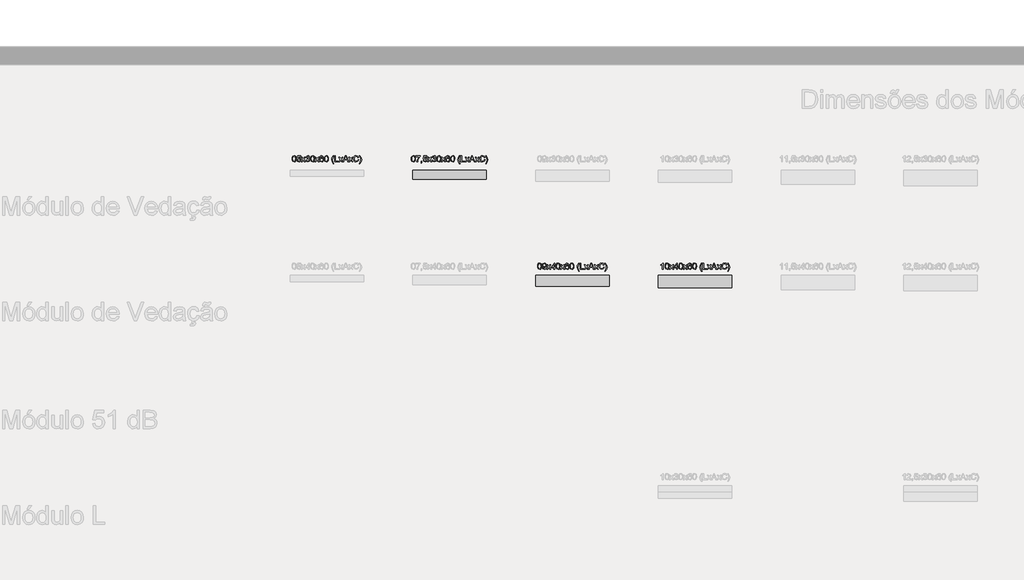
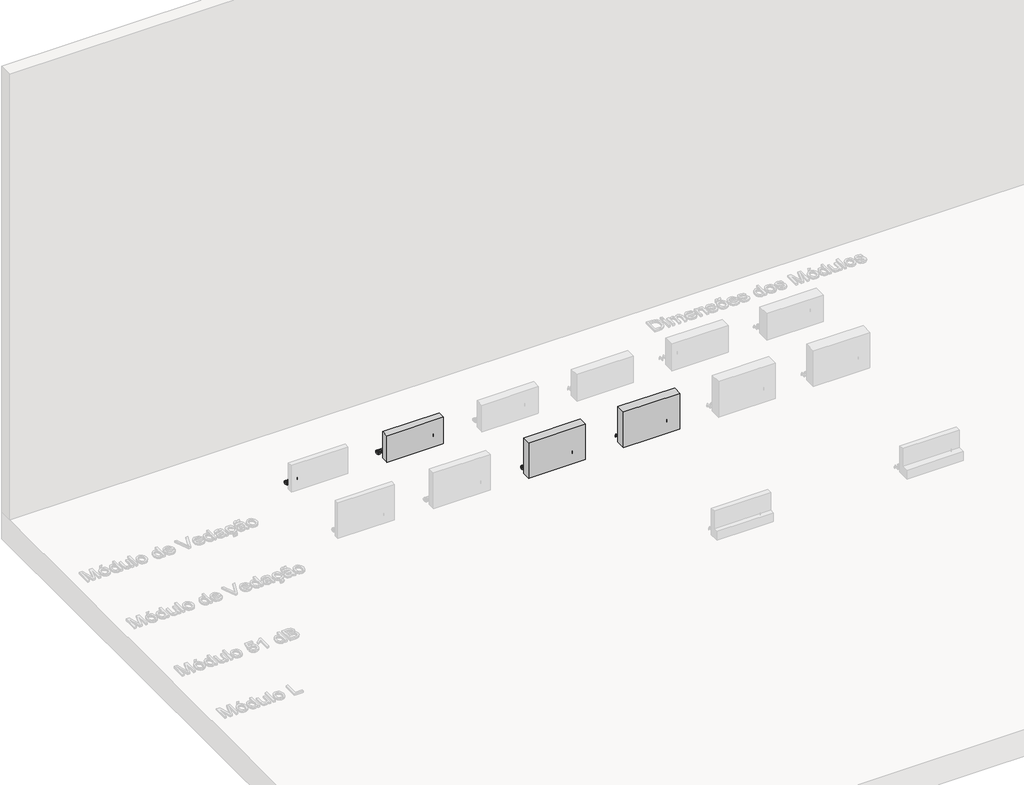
# One storey, part 18 of 26: 7 proxies.
"""IFC4 building model written with IfcOpenShell, lengths in millimetres."""

from ifc_helpers import new_model, si_unit, origin, origin_with_axes, place, context, project, spatial, polyline, outline, extrude, transform, mapped, element, save
from components import generic_models_7dfa735e, generic_models_d6f11422, generic_models_48ae7e6d

model = new_model("IFC4")

# Units and contexts
model_context = context("Model", 3, world=origin())
ifc_project = project(units=[si_unit("LENGTHUNIT", "METRE", prefix="MILLI")], contexts=[model_context])

# Site, building, storey
site = spatial("IfcSite", under=ifc_project)
building = spatial("IfcBuilding", under=site)
storey = spatial("IfcBuildingStorey", under=building, Name="Catálogo Celucon", Elevation=0.0)

# Proxies
placement = place(None, origin())
element("IfcBuildingElementProxy", 1, Name="Dimensões", ObjectType="Dimensões", at=placement, inside=storey, context=model_context, shape_type="SweptSolid", body=[
    extrude(outline(polyline([(-13781.5709703, 1443.172917), (-13779.725429, 1457.6245481), (-13774.2439872, 1465.9570753), (-13765.0898569, 1468.6916648), (-13757.7567425, 1467.072984), (-13752.6922337, 1462.407014), (-13749.7491777, 1454.9757977), (-13748.6087435, 1443.172917), (-13750.4358908, 1428.7825997), (-13755.8989384, 1420.4316784), (-13765.0898569, 1417.6786948), (-13776.5677752, 1422.4611607), (-13780.3201715, 1430.9561691), (-13781.5709703, 1443.172917)]), holes=[polyline([(-13775.2924509, 1443.1851798), (-13772.349395, 1427.5931146), (-13765.0898569, 1423.9572142), (-13757.8303189, 1427.6053773), (-13754.8872629, 1443.1851798), (-13757.732217, 1458.5994354), (-13765.1634333, 1462.4131454), (-13772.2512931, 1459.0531565), (-13775.2924509, 1443.1851798)])]), origin_with_axes(), (0.0, 0.0, 1.0), 20.0),
    extrude(outline(polyline([(-13743.1150391, 1431.8053634), (-13736.8365197, 1432.5901783), (-13733.6727345, 1426.1215866), (-13727.1121723, 1423.9572142), (-13719.2394976, 1426.9677152), (-13716.4313317, 1434.9568858), (-13719.061688, 1442.4126276), (-13727.0140704, 1445.1472171), (-13732.526169, 1444.0558338), (-13736.0517048, 1441.2231425), (-13742.3302242, 1442.0079574), (-13736.8365197, 1467.9068499), (-13712.5072571, 1467.9068499), (-13712.5072571, 1461.6283305), (-13731.7597482, 1461.6283305), (-13734.4452867, 1447.7959675), (-13725.2604996, 1451.4257365), (-13714.5244767, 1446.9253134), (-13710.1528123, 1435.3492933), (-13714.0891497, 1423.6996968), (-13719.7422697, 1419.1839453), (-13727.1366978, 1417.6786948), (-13738.2160772, 1421.5475871), (-13743.1150391, 1431.8053634)])), origin_with_axes(), (0.0, 0.0, 1.0), 20.0),
    extrude(outline(polyline([(-13707.0135526, 1418.4635097), (-13693.5981225, 1437.0047623), (-13706.2287377, 1455.3498111), (-13698.6748941, 1455.3498111), (-13692.5803157, 1446.5206432), (-13689.7353616, 1442.3513139), (-13687.2705522, 1445.7603537), (-13680.3298452, 1455.3498111), (-13672.7760016, 1455.3498111), (-13686.0442789, 1437.0047623), (-13673.2665109, 1418.4635097), (-13680.8203546, 1418.4635097), (-13688.5090883, 1429.6103342), (-13689.9193026, 1431.6459479), (-13699.459709, 1418.4635097), (-13707.0135526, 1418.4635097)])), origin_with_axes(), (0.0, 0.0, 1.0), 20.0),
    extrude(outline(polyline([(-13669.3424363, 1431.8053634), (-13663.0639169, 1432.5901783), (-13659.5996948, 1425.9805651), (-13653.1188403, 1423.9572142), (-13645.4914203, 1426.7408546), (-13642.6587289, 1433.6325106), (-13645.4668948, 1440.1256279), (-13652.6038055, 1442.6946705), (-13657.0061267, 1442.0079574), (-13656.3071509, 1448.2864768), (-13648.1769589, 1450.0155222), (-13645.0131737, 1455.5582776), (-13647.3063048, 1460.4695022), (-13653.2169422, 1462.4131454), (-13659.201156, 1460.4511081), (-13662.279102, 1454.5649962), (-13668.5576214, 1455.3498111), (-13663.4195362, 1465.1967858), (-13653.4376714, 1468.6916648), (-13645.8654337, 1466.9687508), (-13640.5679329, 1462.2598612), (-13638.7346543, 1455.9261595), (-13640.4759624, 1450.1381495), (-13645.6263104, 1445.9810829), (-13638.7837052, 1441.6891263), (-13636.3802095, 1433.522146), (-13641.1872009, 1422.2894825), (-13653.3395695, 1417.6786948), (-13664.3515039, 1421.6150321), (-13669.3424363, 1431.8053634)])), origin_with_axes(), (0.0, 0.0, 1.0), 20.0),
    extrude(outline(polyline([(-13630.8865051, 1443.172917), (-13629.0409637, 1457.6245481), (-13623.559522, 1465.9570753), (-13614.4053917, 1468.6916648), (-13607.0722773, 1467.072984), (-13602.0077685, 1462.407014), (-13599.0647125, 1454.9757977), (-13597.9242783, 1443.172917), (-13599.7514256, 1428.7825997), (-13605.2144732, 1420.4316784), (-13614.4053917, 1417.6786948), (-13625.8833099, 1422.4611607), (-13629.6357063, 1430.9561691), (-13630.8865051, 1443.172917)]), holes=[polyline([(-13624.6079857, 1443.1851798), (-13621.6649297, 1427.5931146), (-13614.4053917, 1423.9572142), (-13607.1458537, 1427.6053773), (-13604.2027977, 1443.1851798), (-13607.0477518, 1458.5994354), (-13614.4789681, 1462.4131454), (-13621.5668279, 1459.0531565), (-13624.6079857, 1443.1851798)])]), origin_with_axes(), (0.0, 0.0, 1.0), 20.0),
    extrude(outline(polyline([(-13594.7850186, 1418.4635097), (-13581.3695885, 1437.0047623), (-13594.0002037, 1455.3498111), (-13586.4463601, 1455.3498111), (-13580.3517817, 1446.5206432), (-13577.5068276, 1442.3513139), (-13575.0420182, 1445.7603537), (-13568.1013112, 1455.3498111), (-13560.5474676, 1455.3498111), (-13573.8157449, 1437.0047623), (-13561.0379769, 1418.4635097), (-13568.5918206, 1418.4635097), (-13576.2805543, 1429.6103342), (-13577.6907686, 1431.6459479), (-13587.231175, 1418.4635097), (-13594.7850186, 1418.4635097)])), origin_with_axes(), (0.0, 0.0, 1.0), 20.0),
    extrude(outline(polyline([(-13524.9364905, 1455.3498111), (-13531.2150099, 1454.5649962), (-13533.5939801, 1459.8011832), (-13539.8847622, 1462.4131454), (-13545.5501449, 1460.8925665), (-13549.8359702, 1455.1842642), (-13551.6201979, 1443.9945202), (-13546.0835738, 1449.0038467), (-13539.2225746, 1450.6409215), (-13528.5539968, 1446.1650239), (-13524.1516755, 1434.6012666), (-13526.2240775, 1425.9376456), (-13531.9262484, 1419.806279), (-13540.1545423, 1417.6786948), (-13552.9507044, 1423.319552), (-13556.661714, 1430.7875565), (-13557.8987172, 1441.9098555), (-13556.5252911, 1454.4147777), (-13552.4050128, 1462.9649684), (-13546.7794839, 1467.2599907), (-13539.4923547, 1468.6916648), (-13529.5718036, 1465.1477349), (-13524.9364905, 1455.3498111)]), holes=[polyline([(-13551.6201979, 1434.6993684), (-13550.167064, 1429.2608463), (-13546.304303, 1425.3122462), (-13540.6450517, 1423.9572142), (-13533.2444922, 1426.7653801), (-13530.4301949, 1434.3928001), (-13533.207704, 1441.6952577), (-13540.9025691, 1444.3624022), (-13548.4993323, 1441.6952577), (-13551.6201979, 1434.6993684)])]), origin_with_axes(), (0.0, 0.0, 1.0), 20.0),
    extrude(outline(polyline([(-13518.6579711, 1443.172917), (-13516.8124297, 1457.6245481), (-13511.330988, 1465.9570753), (-13502.1768577, 1468.6916648), (-13494.8437433, 1467.072984), (-13489.7792345, 1462.407014), (-13486.8361785, 1454.9757977), (-13485.6957443, 1443.172917), (-13487.5228916, 1428.7825997), (-13492.9859392, 1420.4316784), (-13502.1768577, 1417.6786948), (-13513.654776, 1422.4611607), (-13517.4071723, 1430.9561691), (-13518.6579711, 1443.172917)]), holes=[polyline([(-13512.3794517, 1443.1851798), (-13509.4363957, 1427.5931146), (-13502.1768577, 1423.9572142), (-13494.9173197, 1427.6053773), (-13491.9742637, 1443.1851798), (-13494.8192178, 1458.5994354), (-13502.2504341, 1462.4131454), (-13509.3382939, 1459.0531565), (-13512.3794517, 1443.1851798)])]), origin_with_axes(), (0.0, 0.0, 1.0), 20.0),
    extrude(outline(polyline([(-13446.4549982, 1404.3368411), (-13455.3700052, 1419.0643836), (-13459.0120369, 1436.5510411), (-13456.2897102, 1451.8181439), (-13446.4549982, 1468.6916648), (-13441.7461086, 1468.6916648), (-13447.6199578, 1458.7465882), (-13451.151625, 1449.1080799), (-13452.7335176, 1436.5142529), (-13449.9866653, 1420.4194156), (-13441.7461086, 1404.3368411), (-13446.4549982, 1404.3368411)])), origin_with_axes(), (0.0, 0.0, 1.0), 20.0),
    extrude(outline(polyline([(-13434.6827743, 1418.4635097), (-13434.6827743, 1468.6916648), (-13428.4042549, 1468.6916648), (-13428.4042549, 1424.7420291), (-13403.2901774, 1424.7420291), (-13403.2901774, 1418.4635097), (-13434.6827743, 1418.4635097)])), origin_with_axes(), (0.0, 0.0, 1.0), 20.0),
    extrude(outline(polyline([(-13366.7594953, 1418.4635097), (-13346.7099265, 1468.6916648), (-13341.3633749, 1468.6916648), (-13321.3138061, 1418.4635097), (-13327.9479448, 1418.4635097), (-13333.6991666, 1434.1598082), (-13354.3863975, 1434.1598082), (-13360.1253566, 1418.4635097), (-13366.7594953, 1418.4635097)]), holes=[polyline([(-13352.0810037, 1440.4383275), (-13335.9922977, 1440.4383275), (-13340.5172463, 1452.7868999), (-13344.0366507, 1462.4131454), (-13347.1636477, 1453.8660204), (-13352.0810037, 1440.4383275)])]), origin_with_axes(), (0.0, 0.0, 1.0), 20.0),
    extrude(outline(polyline([(-13400.9357326, 1418.4635097), (-13387.5203025, 1437.0047623), (-13400.1509177, 1455.3498111), (-13392.5970741, 1455.3498111), (-13386.5024957, 1446.5206432), (-13383.6575416, 1442.3513139), (-13381.1927322, 1445.7603537), (-13374.2520252, 1455.3498111), (-13366.6981816, 1455.3498111), (-13379.9664589, 1437.0047623), (-13367.1886909, 1418.4635097), (-13374.7425346, 1418.4635097), (-13382.4312683, 1429.6103342), (-13383.8414826, 1431.6459479), (-13393.381889, 1418.4635097), (-13400.9357326, 1418.4635097)])), origin_with_axes(), (0.0, 0.0, 1.0), 20.0),
    extrude(outline(polyline([(-13319.3149806, 1418.4635097), (-13305.8995505, 1437.0047623), (-13318.5301657, 1455.3498111), (-13310.9763221, 1455.3498111), (-13304.8817437, 1446.5206432), (-13302.0367896, 1442.3513139), (-13299.5719802, 1445.7603537), (-13292.6312733, 1455.3498111), (-13285.0774296, 1455.3498111), (-13298.3457069, 1437.0047623), (-13285.5679389, 1418.4635097), (-13293.1217826, 1418.4635097), (-13300.8105163, 1429.6103342), (-13302.2207306, 1431.6459479), (-13311.761137, 1418.4635097), (-13319.3149806, 1418.4635097)])), origin_with_axes(), (0.0, 0.0, 1.0), 20.0),
    extrude(outline(polyline([(-13243.972748, 1436.3180492), (-13237.6942286, 1434.6993684), (-13245.1377077, 1422.0380964), (-13258.2833576, 1417.6786948), (-13271.3492998, 1420.97737), (-13279.0135081, 1430.5300391), (-13281.6438643, 1443.957732), (-13278.6701515, 1457.606154), (-13270.214997, 1466.453716), (-13258.1484676, 1469.4764797), (-13245.5730347, 1465.5646678), (-13238.4790436, 1454.5527334), (-13244.7575629, 1453.05668), (-13249.9079109, 1460.7760705), (-13258.3937222, 1463.1979603), (-13268.2161715, 1460.5124218), (-13273.7650583, 1453.3019346), (-13275.3653449, 1443.9699947), (-13273.4707527, 1433.154264), (-13267.572378, 1426.2442139), (-13258.908757, 1423.9572142), (-13249.3009056, 1427.0719484), (-13243.972748, 1436.3180492)])), origin_with_axes(), (0.0, 0.0, 1.0), 20.0),
    extrude(outline(polyline([(-13228.2764496, 1404.3368411), (-13232.9853391, 1404.3368411), (-13224.7447824, 1420.4194156), (-13221.9979302, 1436.5142529), (-13223.5798228, 1448.9977153), (-13227.0747017, 1458.6484863), (-13232.9853391, 1468.6916648), (-13228.2764496, 1468.6916648), (-13218.4417376, 1451.8181439), (-13215.7194108, 1436.5510411), (-13219.3798366, 1419.0643836), (-13228.2764496, 1404.3368411)])), origin_with_axes(), (0.0, 0.0, 1.0), 20.0),
])
element("IfcBuildingElementProxy", 2, Name="Dimensões", ObjectType="Dimensões", at=placement, inside=storey, context=model_context, shape_type="SweptSolid", body=[
    extrude(outline(polyline([(-12810.6091225, 1443.172917), (-12808.7635811, 1457.6245481), (-12803.2821394, 1465.9570753), (-12794.1280091, 1468.6916648), (-12786.7948946, 1467.072984), (-12781.7303858, 1462.407014), (-12778.7873299, 1454.9757977), (-12777.6468957, 1443.172917), (-12779.4740429, 1428.7825997), (-12784.9370906, 1420.4316784), (-12794.1280091, 1417.6786948), (-12805.6059273, 1422.4611607), (-12809.3583237, 1430.9561691), (-12810.6091225, 1443.172917)]), holes=[polyline([(-12804.3306031, 1443.1851798), (-12801.3875471, 1427.5931146), (-12794.1280091, 1423.9572142), (-12786.868471, 1427.6053773), (-12783.9254151, 1443.1851798), (-12786.7703692, 1458.5994354), (-12794.2015855, 1462.4131454), (-12801.2894452, 1459.0531565), (-12804.3306031, 1443.1851798)])]), origin_with_axes(), (0.0, 0.0, 1.0), 20.0),
    extrude(outline(polyline([(-12772.1531912, 1461.6283305), (-12772.1531912, 1467.9068499), (-12739.1909645, 1467.9068499), (-12739.1909645, 1462.8300783), (-12748.5412985, 1449.3226777), (-12755.6966033, 1432.1119317), (-12758.0265226, 1418.4635097), (-12764.305042, 1418.4635097), (-12761.8095758, 1432.6269665), (-12754.9608393, 1448.6359647), (-12745.4694838, 1461.6283305), (-12772.1531912, 1461.6283305)])), origin_with_axes(), (0.0, 0.0, 1.0), 20.0),
    extrude(outline(polyline([(-12730.5580003, 1418.4635097), (-12730.5580003, 1424.7420291), (-12724.2794809, 1424.7420291), (-12724.2794809, 1418.4635097), (-12725.4076524, 1412.0439689), (-12728.9883705, 1408.2609157), (-12730.5580003, 1410.6153605), (-12728.2526065, 1413.3254245), (-12727.4310034, 1418.4635097), (-12730.5580003, 1418.4635097)])), origin_with_axes(), (0.0, 0.0, 1.0), 20.0),
    extrude(outline(polyline([(-12714.0768869, 1431.8053634), (-12707.7983675, 1432.5901783), (-12704.6345824, 1426.1215866), (-12698.0740201, 1423.9572142), (-12690.2013454, 1426.9677152), (-12687.3931795, 1434.9568858), (-12690.0235358, 1442.4126276), (-12697.9759183, 1445.1472171), (-12703.4880168, 1444.0558338), (-12707.0135526, 1441.2231425), (-12713.292072, 1442.0079574), (-12707.7983675, 1467.9068499), (-12683.4691049, 1467.9068499), (-12683.4691049, 1461.6283305), (-12702.721596, 1461.6283305), (-12705.4071346, 1447.7959675), (-12696.2223474, 1451.4257365), (-12685.4863245, 1446.9253134), (-12681.1146602, 1435.3492933), (-12685.0509975, 1423.6996968), (-12690.7041175, 1419.1839453), (-12698.0985456, 1417.6786948), (-12709.177925, 1421.5475871), (-12714.0768869, 1431.8053634)])), origin_with_axes(), (0.0, 0.0, 1.0), 20.0),
    extrude(outline(polyline([(-12677.9754005, 1418.4635097), (-12664.5599704, 1437.0047623), (-12677.1905855, 1455.3498111), (-12669.6367419, 1455.3498111), (-12663.5421635, 1446.5206432), (-12660.6972094, 1442.3513139), (-12658.2324001, 1445.7603537), (-12651.2916931, 1455.3498111), (-12643.7378494, 1455.3498111), (-12657.0061267, 1437.0047623), (-12644.2283588, 1418.4635097), (-12651.7822024, 1418.4635097), (-12659.4709361, 1429.6103342), (-12660.8811504, 1431.6459479), (-12670.4215568, 1418.4635097), (-12677.9754005, 1418.4635097)])), origin_with_axes(), (0.0, 0.0, 1.0), 20.0),
    extrude(outline(polyline([(-12640.3042842, 1431.8053634), (-12634.0257648, 1432.5901783), (-12630.5615427, 1425.9805651), (-12624.0806882, 1423.9572142), (-12616.4532681, 1426.7408546), (-12613.6205768, 1433.6325106), (-12616.4287427, 1440.1256279), (-12623.5656534, 1442.6946705), (-12627.9679746, 1442.0079574), (-12627.2689988, 1448.2864768), (-12619.1388067, 1450.0155222), (-12615.9750215, 1455.5582776), (-12618.2681526, 1460.4695022), (-12624.17879, 1462.4131454), (-12630.1630038, 1460.4511081), (-12633.2409499, 1454.5649962), (-12639.5194692, 1455.3498111), (-12634.381384, 1465.1967858), (-12624.3995192, 1468.6916648), (-12616.8272815, 1466.9687508), (-12611.5297808, 1462.2598612), (-12609.6965022, 1455.9261595), (-12611.4378103, 1450.1381495), (-12616.5881582, 1445.9810829), (-12609.7455531, 1441.6891263), (-12607.3420574, 1433.522146), (-12612.1490488, 1422.2894825), (-12624.3014174, 1417.6786948), (-12635.3133518, 1421.6150321), (-12640.3042842, 1431.8053634)])), origin_with_axes(), (0.0, 0.0, 1.0), 20.0),
    extrude(outline(polyline([(-12601.8483529, 1443.172917), (-12600.0028116, 1457.6245481), (-12594.5213699, 1465.9570753), (-12585.3672395, 1468.6916648), (-12578.0341251, 1467.072984), (-12572.9696163, 1462.407014), (-12570.0265603, 1454.9757977), (-12568.8861262, 1443.172917), (-12570.7132734, 1428.7825997), (-12576.176321, 1420.4316784), (-12585.3672395, 1417.6786948), (-12596.8451578, 1422.4611607), (-12600.5975541, 1430.9561691), (-12601.8483529, 1443.172917)]), holes=[polyline([(-12595.5698335, 1443.1851798), (-12592.6267776, 1427.5931146), (-12585.3672395, 1423.9572142), (-12578.1077015, 1427.6053773), (-12575.1646455, 1443.1851798), (-12578.0095996, 1458.5994354), (-12585.4408159, 1462.4131454), (-12592.5286757, 1459.0531565), (-12595.5698335, 1443.1851798)])]), origin_with_axes(), (0.0, 0.0, 1.0), 20.0),
    extrude(outline(polyline([(-12565.7468665, 1418.4635097), (-12552.3314364, 1437.0047623), (-12564.9620515, 1455.3498111), (-12557.4082079, 1455.3498111), (-12551.3136295, 1446.5206432), (-12548.4686754, 1442.3513139), (-12546.0038661, 1445.7603537), (-12539.0631591, 1455.3498111), (-12531.5093155, 1455.3498111), (-12544.7775927, 1437.0047623), (-12531.9998248, 1418.4635097), (-12539.5536684, 1418.4635097), (-12547.2424021, 1429.6103342), (-12548.6526164, 1431.6459479), (-12558.1930228, 1418.4635097), (-12565.7468665, 1418.4635097)])), origin_with_axes(), (0.0, 0.0, 1.0), 20.0),
    extrude(outline(polyline([(-12495.8983383, 1455.3498111), (-12502.1768577, 1454.5649962), (-12504.5558279, 1459.8011832), (-12510.8466101, 1462.4131454), (-12516.5119928, 1460.8925665), (-12520.797818, 1455.1842642), (-12522.5820457, 1443.9945202), (-12517.0454217, 1449.0038467), (-12510.1844225, 1450.6409215), (-12499.5158446, 1446.1650239), (-12495.1135234, 1434.6012666), (-12497.1859253, 1425.9376456), (-12502.8880962, 1419.806279), (-12511.1163902, 1417.6786948), (-12523.9125523, 1423.319552), (-12527.6235619, 1430.7875565), (-12528.8605651, 1441.9098555), (-12527.487139, 1454.4147777), (-12523.3668606, 1462.9649684), (-12517.7413318, 1467.2599907), (-12510.4542026, 1468.6916648), (-12500.5336515, 1465.1477349), (-12495.8983383, 1455.3498111)]), holes=[polyline([(-12522.5820457, 1434.6993684), (-12521.1289118, 1429.2608463), (-12517.2661509, 1425.3122462), (-12511.6068995, 1423.9572142), (-12504.20634, 1426.7653801), (-12501.3920428, 1434.3928001), (-12504.1695518, 1441.6952577), (-12511.8644169, 1444.3624022), (-12519.4611801, 1441.6952577), (-12522.5820457, 1434.6993684)])]), origin_with_axes(), (0.0, 0.0, 1.0), 20.0),
    extrude(outline(polyline([(-12489.6198189, 1443.172917), (-12487.7742776, 1457.6245481), (-12482.2928359, 1465.9570753), (-12473.1387056, 1468.6916648), (-12465.8055911, 1467.072984), (-12460.7410823, 1462.407014), (-12457.7980264, 1454.9757977), (-12456.6575922, 1443.172917), (-12458.4847394, 1428.7825997), (-12463.947787, 1420.4316784), (-12473.1387056, 1417.6786948), (-12484.6166238, 1422.4611607), (-12488.3690202, 1430.9561691), (-12489.6198189, 1443.172917)]), holes=[polyline([(-12483.3412996, 1443.1851798), (-12480.3982436, 1427.5931146), (-12473.1387056, 1423.9572142), (-12465.8791675, 1427.6053773), (-12462.9361116, 1443.1851798), (-12465.7810656, 1458.5994354), (-12473.212282, 1462.4131454), (-12480.3001417, 1459.0531565), (-12483.3412996, 1443.1851798)])]), origin_with_axes(), (0.0, 0.0, 1.0), 20.0),
    extrude(outline(polyline([(-12417.416846, 1404.3368411), (-12426.331853, 1419.0643836), (-12429.9738848, 1436.5510411), (-12427.251558, 1451.8181439), (-12417.416846, 1468.6916648), (-12412.7079565, 1468.6916648), (-12418.5818057, 1458.7465882), (-12422.1134728, 1449.1080799), (-12423.6953654, 1436.5142529), (-12420.9485132, 1420.4194156), (-12412.7079565, 1404.3368411), (-12417.416846, 1404.3368411)])), origin_with_axes(), (0.0, 0.0, 1.0), 20.0),
    extrude(outline(polyline([(-12405.6446222, 1418.4635097), (-12405.6446222, 1468.6916648), (-12399.3661028, 1468.6916648), (-12399.3661028, 1424.7420291), (-12374.2520252, 1424.7420291), (-12374.2520252, 1418.4635097), (-12405.6446222, 1418.4635097)])), origin_with_axes(), (0.0, 0.0, 1.0), 20.0),
    extrude(outline(polyline([(-12337.7213431, 1418.4635097), (-12317.6717744, 1468.6916648), (-12312.3252227, 1468.6916648), (-12292.275654, 1418.4635097), (-12298.9097926, 1418.4635097), (-12304.6610145, 1434.1598082), (-12325.3482454, 1434.1598082), (-12331.0872045, 1418.4635097), (-12337.7213431, 1418.4635097)]), holes=[polyline([(-12323.0428515, 1440.4383275), (-12306.9541456, 1440.4383275), (-12311.4790941, 1452.7868999), (-12314.9984986, 1462.4131454), (-12318.1254955, 1453.8660204), (-12323.0428515, 1440.4383275)])]), origin_with_axes(), (0.0, 0.0, 1.0), 20.0),
    extrude(outline(polyline([(-12371.8975805, 1418.4635097), (-12358.4821504, 1437.0047623), (-12371.1127656, 1455.3498111), (-12363.5589219, 1455.3498111), (-12357.4643435, 1446.5206432), (-12354.6193894, 1442.3513139), (-12352.1545801, 1445.7603537), (-12345.2138731, 1455.3498111), (-12337.6600295, 1455.3498111), (-12350.9283068, 1437.0047623), (-12338.1505388, 1418.4635097), (-12345.7043824, 1418.4635097), (-12353.3931161, 1429.6103342), (-12354.8033304, 1431.6459479), (-12364.3437368, 1418.4635097), (-12371.8975805, 1418.4635097)])), origin_with_axes(), (0.0, 0.0, 1.0), 20.0),
    extrude(outline(polyline([(-12290.2768285, 1418.4635097), (-12276.8613984, 1437.0047623), (-12289.4920136, 1455.3498111), (-12281.9381699, 1455.3498111), (-12275.8435915, 1446.5206432), (-12272.9986374, 1442.3513139), (-12270.5338281, 1445.7603537), (-12263.5931211, 1455.3498111), (-12256.0392775, 1455.3498111), (-12269.3075548, 1437.0047623), (-12256.5297868, 1418.4635097), (-12264.0836304, 1418.4635097), (-12271.7723641, 1429.6103342), (-12273.1825784, 1431.6459479), (-12282.7229848, 1418.4635097), (-12290.2768285, 1418.4635097)])), origin_with_axes(), (0.0, 0.0, 1.0), 20.0),
    extrude(outline(polyline([(-12214.9345959, 1436.3180492), (-12208.6560765, 1434.6993684), (-12216.0995555, 1422.0380964), (-12229.2452055, 1417.6786948), (-12242.3111477, 1420.97737), (-12249.9753559, 1430.5300391), (-12252.6057122, 1443.957732), (-12249.6319994, 1457.606154), (-12241.1768449, 1466.453716), (-12229.1103154, 1469.4764797), (-12216.5348825, 1465.5646678), (-12209.4408914, 1454.5527334), (-12215.7194108, 1453.05668), (-12220.8697587, 1460.7760705), (-12229.3555701, 1463.1979603), (-12239.1780194, 1460.5124218), (-12244.7269061, 1453.3019346), (-12246.3271928, 1443.9699947), (-12244.4326005, 1433.154264), (-12238.5342259, 1426.2442139), (-12229.8706049, 1423.9572142), (-12220.2627534, 1427.0719484), (-12214.9345959, 1436.3180492)])), origin_with_axes(), (0.0, 0.0, 1.0), 20.0),
    extrude(outline(polyline([(-12199.2382974, 1404.3368411), (-12203.9471869, 1404.3368411), (-12195.7066303, 1420.4194156), (-12192.959778, 1436.5142529), (-12194.5416706, 1448.9977153), (-12198.0365496, 1458.6484863), (-12203.9471869, 1468.6916648), (-12199.2382974, 1468.6916648), (-12189.4035854, 1451.8181439), (-12186.6812586, 1436.5510411), (-12190.3416845, 1419.0643836), (-12199.2382974, 1404.3368411)])), origin_with_axes(), (0.0, 0.0, 1.0), 20.0),
])
element("IfcBuildingElementProxy", 3, Name="Dimensões", ObjectType="Dimensões", at=placement, inside=storey, context=model_context, shape_type="SweptSolid", body=[
    extrude(outline(polyline([(-11781.5709703, 567.890538), (-11779.725429, 582.3421691), (-11774.2439872, 590.6746963), (-11765.0898569, 593.4092858), (-11757.7567425, 591.790605), (-11752.6922337, 587.124635), (-11749.7491777, 579.6934187), (-11748.6087435, 567.890538), (-11750.4358908, 553.5002207), (-11755.8989384, 545.1492994), (-11765.0898569, 542.3963158), (-11776.5677752, 547.1787817), (-11780.3201715, 555.6737901), (-11781.5709703, 567.890538)]), holes=[polyline([(-11775.2924509, 567.9028008), (-11772.349395, 552.3107355), (-11765.0898569, 548.6748351), (-11757.8303189, 552.3229983), (-11754.8872629, 567.9028008), (-11757.732217, 583.3170564), (-11765.1634333, 587.1307664), (-11772.2512931, 583.7707775), (-11775.2924509, 567.9028008)])]), origin_with_axes(), (0.0, 0.0, 1.0), 20.0),
    extrude(outline(polyline([(-11742.3302242, 555.7381695), (-11736.0517048, 556.5229844), (-11733.2312761, 550.5326392), (-11727.8847245, 548.6748351), (-11722.8018216, 549.8704516), (-11719.3559936, 553.0648936), (-11717.3019857, 558.5218099), (-11716.3945435, 565.8058734), (-11721.4529209, 562.2742062), (-11728.3384456, 560.447059), (-11738.8292138, 564.9106939), (-11743.1150391, 576.670655), (-11738.6207474, 588.8107608), (-11727.357427, 593.4092858), (-11718.4117631, 590.7850609), (-11712.255871, 583.3047936), (-11710.1528123, 569.2517014), (-11712.2497397, 554.0029927), (-11718.4853395, 545.3638972), (-11728.1790301, 542.3963158), (-11737.8298011, 545.8973261), (-11742.3302242, 555.7381695)]), holes=[polyline([(-11716.4313317, 576.8178078), (-11719.1413957, 584.3471259), (-11726.3396201, 587.1307664), (-11733.8934637, 584.1325281), (-11736.8365197, 576.3640867), (-11734.0528793, 569.4049856), (-11726.5112984, 566.7255784), (-11719.2701544, 569.4049856), (-11716.4313317, 576.8178078)])]), origin_with_axes(), (0.0, 0.0, 1.0), 20.0),
    extrude(outline(polyline([(-11707.0135526, 543.1811307), (-11693.5981225, 561.7223832), (-11706.2287377, 580.0674321), (-11698.6748941, 580.0674321), (-11692.5803157, 571.2382642), (-11689.7353616, 567.0689349), (-11687.2705522, 570.4779747), (-11680.3298452, 580.0674321), (-11672.7760016, 580.0674321), (-11686.0442789, 561.7223832), (-11673.2665109, 543.1811307), (-11680.8203546, 543.1811307), (-11688.5090883, 554.3279551), (-11689.9193026, 556.3635688), (-11699.459709, 543.1811307), (-11707.0135526, 543.1811307)])), origin_with_axes(), (0.0, 0.0, 1.0), 20.0),
    extrude(outline(polyline([(-11648.9372483, 543.1811307), (-11648.9372483, 554.9533545), (-11671.6968811, 554.9533545), (-11671.6968811, 561.2318739), (-11647.3676185, 592.6244708), (-11642.6587289, 592.6244708), (-11642.6587289, 561.2318739), (-11636.3802095, 561.2318739), (-11636.3802095, 554.9533545), (-11642.6587289, 554.9533545), (-11642.6587289, 543.1811307), (-11648.9372483, 543.1811307)]), holes=[polyline([(-11648.9372483, 561.2318739), (-11648.9372483, 580.6315178), (-11663.9713592, 561.2318739), (-11648.9372483, 561.2318739)])]), origin_with_axes(), (0.0, 0.0, 1.0), 20.0),
    extrude(outline(polyline([(-11630.8865051, 567.890538), (-11629.0409637, 582.3421691), (-11623.559522, 590.6746963), (-11614.4053917, 593.4092858), (-11607.0722773, 591.790605), (-11602.0077685, 587.124635), (-11599.0647125, 579.6934187), (-11597.9242783, 567.890538), (-11599.7514256, 553.5002207), (-11605.2144732, 545.1492994), (-11614.4053917, 542.3963158), (-11625.8833099, 547.1787817), (-11629.6357063, 555.6737901), (-11630.8865051, 567.890538)]), holes=[polyline([(-11624.6079857, 567.9028008), (-11621.6649297, 552.3107355), (-11614.4053917, 548.6748351), (-11607.1458537, 552.3229983), (-11604.2027977, 567.9028008), (-11607.0477518, 583.3170564), (-11614.4789681, 587.1307664), (-11621.5668279, 583.7707775), (-11624.6079857, 567.9028008)])]), origin_with_axes(), (0.0, 0.0, 1.0), 20.0),
    extrude(outline(polyline([(-11594.7850186, 543.1811307), (-11581.3695885, 561.7223832), (-11594.0002037, 580.0674321), (-11586.4463601, 580.0674321), (-11580.3517817, 571.2382642), (-11577.5068276, 567.0689349), (-11575.0420182, 570.4779747), (-11568.1013112, 580.0674321), (-11560.5474676, 580.0674321), (-11573.8157449, 561.7223832), (-11561.0379769, 543.1811307), (-11568.5918206, 543.1811307), (-11576.2805543, 554.3279551), (-11577.6907686, 556.3635688), (-11587.231175, 543.1811307), (-11594.7850186, 543.1811307)])), origin_with_axes(), (0.0, 0.0, 1.0), 20.0),
    extrude(outline(polyline([(-11524.9364905, 580.0674321), (-11531.2150099, 579.2826171), (-11533.5939801, 584.5188042), (-11539.8847622, 587.1307664), (-11545.5501449, 585.6101875), (-11549.8359702, 579.9018852), (-11551.6201979, 568.7121412), (-11546.0835738, 573.7214677), (-11539.2225746, 575.3585425), (-11528.5539968, 570.8826449), (-11524.1516755, 559.3188875), (-11526.2240775, 550.6552666), (-11531.9262484, 544.5239), (-11540.1545423, 542.3963158), (-11552.9507044, 548.037173), (-11556.661714, 555.5051775), (-11557.8987172, 566.6274765), (-11556.5252911, 579.1323987), (-11552.4050128, 587.6825894), (-11546.7794839, 591.9776117), (-11539.4923547, 593.4092858), (-11529.5718036, 589.8653559), (-11524.9364905, 580.0674321)]), holes=[polyline([(-11551.6201979, 559.4169894), (-11550.167064, 553.9784672), (-11546.304303, 550.0298672), (-11540.6450517, 548.6748351), (-11533.2444922, 551.483001), (-11530.4301949, 559.1104211), (-11533.207704, 566.4128787), (-11540.9025691, 569.0800231), (-11548.4993323, 566.4128787), (-11551.6201979, 559.4169894)])]), origin_with_axes(), (0.0, 0.0, 1.0), 20.0),
    extrude(outline(polyline([(-11518.6579711, 567.890538), (-11516.8124297, 582.3421691), (-11511.330988, 590.6746963), (-11502.1768577, 593.4092858), (-11494.8437433, 591.790605), (-11489.7792345, 587.124635), (-11486.8361785, 579.6934187), (-11485.6957443, 567.890538), (-11487.5228916, 553.5002207), (-11492.9859392, 545.1492994), (-11502.1768577, 542.3963158), (-11513.654776, 547.1787817), (-11517.4071723, 555.6737901), (-11518.6579711, 567.890538)]), holes=[polyline([(-11512.3794517, 567.9028008), (-11509.4363957, 552.3107355), (-11502.1768577, 548.6748351), (-11494.9173197, 552.3229983), (-11491.9742637, 567.9028008), (-11494.8192178, 583.3170564), (-11502.2504341, 587.1307664), (-11509.3382939, 583.7707775), (-11512.3794517, 567.9028008)])]), origin_with_axes(), (0.0, 0.0, 1.0), 20.0),
    extrude(outline(polyline([(-11446.4549982, 529.0544621), (-11455.3700052, 543.7820046), (-11459.0120369, 561.2686621), (-11456.2897102, 576.5357649), (-11446.4549982, 593.4092858), (-11441.7461086, 593.4092858), (-11447.6199578, 583.4642092), (-11451.151625, 573.8257009), (-11452.7335176, 561.2318739), (-11449.9866653, 545.1370366), (-11441.7461086, 529.0544621), (-11446.4549982, 529.0544621)])), origin_with_axes(), (0.0, 0.0, 1.0), 20.0),
    extrude(outline(polyline([(-11434.6827743, 543.1811307), (-11434.6827743, 593.4092858), (-11428.4042549, 593.4092858), (-11428.4042549, 549.4596501), (-11403.2901774, 549.4596501), (-11403.2901774, 543.1811307), (-11434.6827743, 543.1811307)])), origin_with_axes(), (0.0, 0.0, 1.0), 20.0),
    extrude(outline(polyline([(-11366.7594953, 543.1811307), (-11346.7099265, 593.4092858), (-11341.3633749, 593.4092858), (-11321.3138061, 543.1811307), (-11327.9479448, 543.1811307), (-11333.6991666, 558.8774291), (-11354.3863975, 558.8774291), (-11360.1253566, 543.1811307), (-11366.7594953, 543.1811307)]), holes=[polyline([(-11352.0810037, 565.1559485), (-11335.9922977, 565.1559485), (-11340.5172463, 577.5045208), (-11344.0366507, 587.1307664), (-11347.1636477, 578.5836414), (-11352.0810037, 565.1559485)])]), origin_with_axes(), (0.0, 0.0, 1.0), 20.0),
    extrude(outline(polyline([(-11400.9357326, 543.1811307), (-11387.5203025, 561.7223832), (-11400.1509177, 580.0674321), (-11392.5970741, 580.0674321), (-11386.5024957, 571.2382642), (-11383.6575416, 567.0689349), (-11381.1927322, 570.4779747), (-11374.2520252, 580.0674321), (-11366.6981816, 580.0674321), (-11379.9664589, 561.7223832), (-11367.1886909, 543.1811307), (-11374.7425346, 543.1811307), (-11382.4312683, 554.3279551), (-11383.8414826, 556.3635688), (-11393.381889, 543.1811307), (-11400.9357326, 543.1811307)])), origin_with_axes(), (0.0, 0.0, 1.0), 20.0),
    extrude(outline(polyline([(-11319.3149806, 543.1811307), (-11305.8995505, 561.7223832), (-11318.5301657, 580.0674321), (-11310.9763221, 580.0674321), (-11304.8817437, 571.2382642), (-11302.0367896, 567.0689349), (-11299.5719802, 570.4779747), (-11292.6312733, 580.0674321), (-11285.0774296, 580.0674321), (-11298.3457069, 561.7223832), (-11285.5679389, 543.1811307), (-11293.1217826, 543.1811307), (-11300.8105163, 554.3279551), (-11302.2207306, 556.3635688), (-11311.761137, 543.1811307), (-11319.3149806, 543.1811307)])), origin_with_axes(), (0.0, 0.0, 1.0), 20.0),
    extrude(outline(polyline([(-11243.972748, 561.0356702), (-11237.6942286, 559.4169894), (-11245.1377077, 546.7557174), (-11258.2833576, 542.3963158), (-11271.3492998, 545.694991), (-11279.0135081, 555.2476601), (-11281.6438643, 568.675353), (-11278.6701515, 582.323775), (-11270.214997, 591.171337), (-11258.1484676, 594.1941007), (-11245.5730347, 590.2822888), (-11238.4790436, 579.2703544), (-11244.7575629, 577.774301), (-11249.9079109, 585.4936915), (-11258.3937222, 587.9155813), (-11268.2161715, 585.2300427), (-11273.7650583, 578.0195556), (-11275.3653449, 568.6876157), (-11273.4707527, 557.871885), (-11267.572378, 550.9618349), (-11258.908757, 548.6748351), (-11249.3009056, 551.7895694), (-11243.972748, 561.0356702)])), origin_with_axes(), (0.0, 0.0, 1.0), 20.0),
    extrude(outline(polyline([(-11228.2764496, 529.0544621), (-11232.9853391, 529.0544621), (-11224.7447824, 545.1370366), (-11221.9979302, 561.2318739), (-11223.5798228, 573.7153363), (-11227.0747017, 583.3661073), (-11232.9853391, 593.4092858), (-11228.2764496, 593.4092858), (-11218.4417376, 576.5357649), (-11215.7194108, 561.2686621), (-11219.3798366, 543.7820046), (-11228.2764496, 529.0544621)])), origin_with_axes(), (0.0, 0.0, 1.0), 20.0),
])
element("IfcBuildingElementProxy", 4, Name="Dimensões", ObjectType="Dimensões", at=placement, inside=storey, context=model_context, shape_type="SweptSolid", body=[
    extrude(outline(polyline([(-10758.0265226, 543.1811307), (-10764.305042, 543.1811307), (-10764.305042, 582.323775), (-10770.2524676, 578.0870007), (-10776.8620808, 574.9170841), (-10776.8620808, 580.852247), (-10767.6588995, 586.7260962), (-10762.0732246, 593.4092858), (-10758.0265226, 593.4092858), (-10758.0265226, 543.1811307)])), origin_with_axes(), (0.0, 0.0, 1.0), 20.0),
    extrude(outline(polyline([(-10743.1150391, 567.890538), (-10741.2694977, 582.3421691), (-10735.788056, 590.6746963), (-10726.6339257, 593.4092858), (-10719.3008113, 591.790605), (-10714.2363025, 587.124635), (-10711.2932465, 579.6934187), (-10710.1528123, 567.890538), (-10711.9799596, 553.5002207), (-10717.4430072, 545.1492994), (-10726.6339257, 542.3963158), (-10738.1118439, 547.1787817), (-10741.8642403, 555.6737901), (-10743.1150391, 567.890538)]), holes=[polyline([(-10736.8365197, 567.9028008), (-10733.8934637, 552.3107355), (-10726.6339257, 548.6748351), (-10719.3743877, 552.3229983), (-10716.4313317, 567.9028008), (-10719.2762858, 583.3170564), (-10726.7075021, 587.1307664), (-10733.7953619, 583.7707775), (-10736.8365197, 567.9028008)])]), origin_with_axes(), (0.0, 0.0, 1.0), 20.0),
    extrude(outline(polyline([(-10707.0135526, 543.1811307), (-10693.5981225, 561.7223832), (-10706.2287377, 580.0674321), (-10698.6748941, 580.0674321), (-10692.5803157, 571.2382642), (-10689.7353616, 567.0689349), (-10687.2705522, 570.4779747), (-10680.3298452, 580.0674321), (-10672.7760016, 580.0674321), (-10686.0442789, 561.7223832), (-10673.2665109, 543.1811307), (-10680.8203546, 543.1811307), (-10688.5090883, 554.3279551), (-10689.9193026, 556.3635688), (-10699.459709, 543.1811307), (-10707.0135526, 543.1811307)])), origin_with_axes(), (0.0, 0.0, 1.0), 20.0),
    extrude(outline(polyline([(-10648.9372483, 543.1811307), (-10648.9372483, 554.9533545), (-10671.6968811, 554.9533545), (-10671.6968811, 561.2318739), (-10647.3676185, 592.6244708), (-10642.6587289, 592.6244708), (-10642.6587289, 561.2318739), (-10636.3802095, 561.2318739), (-10636.3802095, 554.9533545), (-10642.6587289, 554.9533545), (-10642.6587289, 543.1811307), (-10648.9372483, 543.1811307)]), holes=[polyline([(-10648.9372483, 561.2318739), (-10648.9372483, 580.6315178), (-10663.9713592, 561.2318739), (-10648.9372483, 561.2318739)])]), origin_with_axes(), (0.0, 0.0, 1.0), 20.0),
    extrude(outline(polyline([(-10630.8865051, 567.890538), (-10629.0409637, 582.3421691), (-10623.559522, 590.6746963), (-10614.4053917, 593.4092858), (-10607.0722773, 591.790605), (-10602.0077685, 587.124635), (-10599.0647125, 579.6934187), (-10597.9242783, 567.890538), (-10599.7514256, 553.5002207), (-10605.2144732, 545.1492994), (-10614.4053917, 542.3963158), (-10625.8833099, 547.1787817), (-10629.6357063, 555.6737901), (-10630.8865051, 567.890538)]), holes=[polyline([(-10624.6079857, 567.9028008), (-10621.6649297, 552.3107355), (-10614.4053917, 548.6748351), (-10607.1458537, 552.3229983), (-10604.2027977, 567.9028008), (-10607.0477518, 583.3170564), (-10614.4789681, 587.1307664), (-10621.5668279, 583.7707775), (-10624.6079857, 567.9028008)])]), origin_with_axes(), (0.0, 0.0, 1.0), 20.0),
    extrude(outline(polyline([(-10594.7850186, 543.1811307), (-10581.3695885, 561.7223832), (-10594.0002037, 580.0674321), (-10586.4463601, 580.0674321), (-10580.3517817, 571.2382642), (-10577.5068276, 567.0689349), (-10575.0420182, 570.4779747), (-10568.1013112, 580.0674321), (-10560.5474676, 580.0674321), (-10573.8157449, 561.7223832), (-10561.0379769, 543.1811307), (-10568.5918206, 543.1811307), (-10576.2805543, 554.3279551), (-10577.6907686, 556.3635688), (-10587.231175, 543.1811307), (-10594.7850186, 543.1811307)])), origin_with_axes(), (0.0, 0.0, 1.0), 20.0),
    extrude(outline(polyline([(-10524.9364905, 580.0674321), (-10531.2150099, 579.2826171), (-10533.5939801, 584.5188042), (-10539.8847622, 587.1307664), (-10545.5501449, 585.6101875), (-10549.8359702, 579.9018852), (-10551.6201979, 568.7121412), (-10546.0835738, 573.7214677), (-10539.2225746, 575.3585425), (-10528.5539968, 570.8826449), (-10524.1516755, 559.3188875), (-10526.2240775, 550.6552666), (-10531.9262484, 544.5239), (-10540.1545423, 542.3963158), (-10552.9507044, 548.037173), (-10556.661714, 555.5051775), (-10557.8987172, 566.6274765), (-10556.5252911, 579.1323987), (-10552.4050128, 587.6825894), (-10546.7794839, 591.9776117), (-10539.4923547, 593.4092858), (-10529.5718036, 589.8653559), (-10524.9364905, 580.0674321)]), holes=[polyline([(-10551.6201979, 559.4169894), (-10550.167064, 553.9784672), (-10546.304303, 550.0298672), (-10540.6450517, 548.6748351), (-10533.2444922, 551.483001), (-10530.4301949, 559.1104211), (-10533.207704, 566.4128787), (-10540.9025691, 569.0800231), (-10548.4993323, 566.4128787), (-10551.6201979, 559.4169894)])]), origin_with_axes(), (0.0, 0.0, 1.0), 20.0),
    extrude(outline(polyline([(-10518.6579711, 567.890538), (-10516.8124297, 582.3421691), (-10511.330988, 590.6746963), (-10502.1768577, 593.4092858), (-10494.8437433, 591.790605), (-10489.7792345, 587.124635), (-10486.8361785, 579.6934187), (-10485.6957443, 567.890538), (-10487.5228916, 553.5002207), (-10492.9859392, 545.1492994), (-10502.1768577, 542.3963158), (-10513.654776, 547.1787817), (-10517.4071723, 555.6737901), (-10518.6579711, 567.890538)]), holes=[polyline([(-10512.3794517, 567.9028008), (-10509.4363957, 552.3107355), (-10502.1768577, 548.6748351), (-10494.9173197, 552.3229983), (-10491.9742637, 567.9028008), (-10494.8192178, 583.3170564), (-10502.2504341, 587.1307664), (-10509.3382939, 583.7707775), (-10512.3794517, 567.9028008)])]), origin_with_axes(), (0.0, 0.0, 1.0), 20.0),
    extrude(outline(polyline([(-10446.4549982, 529.0544621), (-10455.3700052, 543.7820046), (-10459.0120369, 561.2686621), (-10456.2897102, 576.5357649), (-10446.4549982, 593.4092858), (-10441.7461086, 593.4092858), (-10447.6199578, 583.4642092), (-10451.151625, 573.8257009), (-10452.7335176, 561.2318739), (-10449.9866653, 545.1370366), (-10441.7461086, 529.0544621), (-10446.4549982, 529.0544621)])), origin_with_axes(), (0.0, 0.0, 1.0), 20.0),
    extrude(outline(polyline([(-10434.6827743, 543.1811307), (-10434.6827743, 593.4092858), (-10428.4042549, 593.4092858), (-10428.4042549, 549.4596501), (-10403.2901774, 549.4596501), (-10403.2901774, 543.1811307), (-10434.6827743, 543.1811307)])), origin_with_axes(), (0.0, 0.0, 1.0), 20.0),
    extrude(outline(polyline([(-10400.9357326, 543.1811307), (-10387.5203025, 561.7223832), (-10400.1509177, 580.0674321), (-10392.5970741, 580.0674321), (-10386.5024957, 571.2382642), (-10383.6575416, 567.0689349), (-10381.1927322, 570.4779747), (-10374.2520252, 580.0674321), (-10366.6981816, 580.0674321), (-10379.9664589, 561.7223832), (-10367.1886909, 543.1811307), (-10374.7425346, 543.1811307), (-10382.4312683, 554.3279551), (-10383.8414826, 556.3635688), (-10393.381889, 543.1811307), (-10400.9357326, 543.1811307)])), origin_with_axes(), (0.0, 0.0, 1.0), 20.0),
    extrude(outline(polyline([(-10366.7594953, 543.1811307), (-10346.7099265, 593.4092858), (-10341.3633749, 593.4092858), (-10321.3138061, 543.1811307), (-10327.9479448, 543.1811307), (-10333.6991666, 558.8774291), (-10354.3863975, 558.8774291), (-10360.1253566, 543.1811307), (-10366.7594953, 543.1811307)]), holes=[polyline([(-10352.0810037, 565.1559485), (-10335.9922977, 565.1559485), (-10340.5172463, 577.5045208), (-10344.0366507, 587.1307664), (-10347.1636477, 578.5836414), (-10352.0810037, 565.1559485)])]), origin_with_axes(), (0.0, 0.0, 1.0), 20.0),
    extrude(outline(polyline([(-10319.3149806, 543.1811307), (-10305.8995505, 561.7223832), (-10318.5301657, 580.0674321), (-10310.9763221, 580.0674321), (-10304.8817437, 571.2382642), (-10302.0367896, 567.0689349), (-10299.5719802, 570.4779747), (-10292.6312733, 580.0674321), (-10285.0774296, 580.0674321), (-10298.3457069, 561.7223832), (-10285.5679389, 543.1811307), (-10293.1217826, 543.1811307), (-10300.8105163, 554.3279551), (-10302.2207306, 556.3635688), (-10311.761137, 543.1811307), (-10319.3149806, 543.1811307)])), origin_with_axes(), (0.0, 0.0, 1.0), 20.0),
    extrude(outline(polyline([(-10243.972748, 561.0356702), (-10237.6942286, 559.4169894), (-10245.1377077, 546.7557174), (-10258.2833576, 542.3963158), (-10271.3492998, 545.694991), (-10279.0135081, 555.2476601), (-10281.6438643, 568.675353), (-10278.6701515, 582.323775), (-10270.214997, 591.171337), (-10258.1484676, 594.1941007), (-10245.5730347, 590.2822888), (-10238.4790436, 579.2703544), (-10244.7575629, 577.774301), (-10249.9079109, 585.4936915), (-10258.3937222, 587.9155813), (-10268.2161715, 585.2300427), (-10273.7650583, 578.0195556), (-10275.3653449, 568.6876157), (-10273.4707527, 557.871885), (-10267.572378, 550.9618349), (-10258.908757, 548.6748351), (-10249.3009056, 551.7895694), (-10243.972748, 561.0356702)])), origin_with_axes(), (0.0, 0.0, 1.0), 20.0),
    extrude(outline(polyline([(-10228.2764496, 529.0544621), (-10232.9853391, 529.0544621), (-10224.7447824, 545.1370366), (-10221.9979302, 561.2318739), (-10223.5798228, 573.7153363), (-10227.0747017, 583.3661073), (-10232.9853391, 593.4092858), (-10228.2764496, 593.4092858), (-10218.4417376, 576.5357649), (-10215.7194108, 561.2686621), (-10219.3798366, 543.7820046), (-10228.2764496, 529.0544621)])), origin_with_axes(), (0.0, 0.0, 1.0), 20.0),
])
generic_models_shape = generic_models_7dfa735e(model_context)
element("IfcBuildingElementProxy", 5, Name="Módulo de Vedação de Concreto Celular - Celucon : MVCC 07,5x30x60cm (L x A x C)", ObjectType="Módulo de Vedação de Concreto Celular - Celucon : MVCC 07,5x30x60cm (L x A x C)", at=placement, inside=storey, context=model_context, shape_type="MappedRepresentation", body=[
    mapped(generic_models_shape, transform((-12497.8603756, 1312.8239878, 0.0), x_axis=(1.0, 0.0, 0.0), y_axis=(0.0, 1.0, 0.0), z_axis=(0.0, 0.0, 1.0))),
])
generic_models_2_shape = generic_models_d6f11422(model_context)
element("IfcBuildingElementProxy", 6, Name="Módulo de Vedação de Concreto Celular - Celucon : MVCC 10x40x60cm (L x A x C)", ObjectType="Módulo de Vedação de Concreto Celular - Celucon : MVCC 10x40x60cm (L x A x C)", at=placement, inside=storey, context=model_context, shape_type="MappedRepresentation", body=[
    mapped(generic_models_2_shape, transform((-10497.8603756, 443.1811307, 0.0), x_axis=(1.0, 0.0, 0.0), y_axis=(0.0, 1.0, 0.0), z_axis=(0.0, 0.0, 1.0))),
])
generic_models_3_shape = generic_models_48ae7e6d(model_context)
element("IfcBuildingElementProxy", 7, Name="Módulo de Vedação de Concreto Celular - Celucon : MVCC 09x40x60cm (L x A x C)", ObjectType="Módulo de Vedação de Concreto Celular - Celucon : MVCC 09x40x60cm (L x A x C)", at=placement, inside=storey, context=model_context, shape_type="MappedRepresentation", body=[
    mapped(generic_models_3_shape, transform((-11497.8603756, 448.1811307, 0.0), x_axis=(1.0, 0.0, 0.0), y_axis=(0.0, 1.0, 0.0), z_axis=(0.0, 0.0, 1.0))),
])

save(model, "model.ifc")
